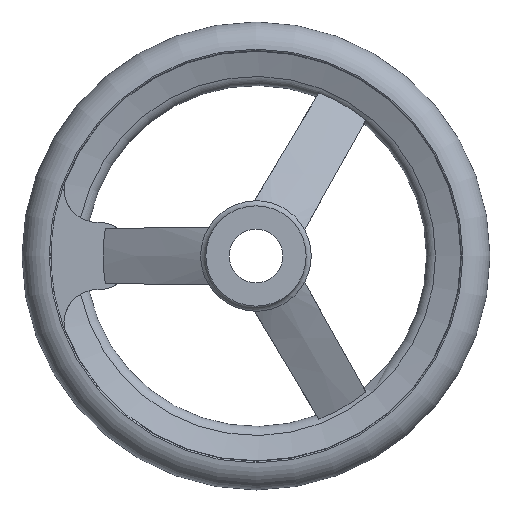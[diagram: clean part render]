
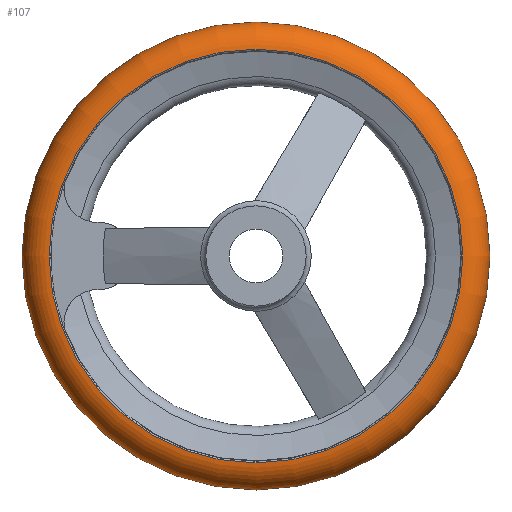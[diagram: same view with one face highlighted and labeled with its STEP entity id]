
A CAD part, left-side view. The second image highlights one B-rep face of the part: STEP entity #107.
In plain terms, the highlighted toroidal (fillet/blend) face has major radius 61.492 mm and minor radius 8.508 mm.
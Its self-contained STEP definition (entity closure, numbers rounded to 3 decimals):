
#107 = ADVANCED_FACE( '', ( #193, #194, #195 ), #196, .T. );
#193 = FACE_BOUND( '', #285, .T. );
#194 = FACE_OUTER_BOUND( '', #286, .T. );
#195 = FACE_OUTER_BOUND( '', #287, .T. );
#196 = TOROIDAL_SURFACE( '', #288, 61.492, 8.508 );
#285 = VERTEX_LOOP( '', #551 );
#286 = EDGE_LOOP( '', ( #552 ) );
#287 = EDGE_LOOP( '', ( #553 ) );
#288 = AXIS2_PLACEMENT_3D( '', #554, #555, #556 );
#551 = VERTEX_POINT( '', #681 );
#552 = ORIENTED_EDGE( '', *, *, #680, .T. );
#553 = ORIENTED_EDGE( '', *, *, #670, .F. );
#554 = CARTESIAN_POINT( '', ( 30.5, 0., 0. ) );
#555 = DIRECTION( '', ( -1., 0., 0. ) );
#556 = DIRECTION( '', ( 0., -1., 0. ) );
#670 = EDGE_CURVE( '', #822, #822, #823, .T. );
#680 = EDGE_CURVE( '', #836, #836, #837, .T. );
#681 = CARTESIAN_POINT( '', ( 30.5, -70., 0. ) );
#822 = VERTEX_POINT( '', #1395 );
#823 = CIRCLE( '', #1396, 61.854 );
#836 = VERTEX_POINT( '', #1410 );
#837 = CIRCLE( '', #1411, 61.854 );
#1395 = CARTESIAN_POINT( '', ( 22., -61.854, 0. ) );
#1396 = AXIS2_PLACEMENT_3D( '', #1520, #1521, #1522 );
#1410 = CARTESIAN_POINT( '', ( 39., -61.854, 0. ) );
#1411 = AXIS2_PLACEMENT_3D( '', #1548, #1549, #1550 );
#1520 = CARTESIAN_POINT( '', ( 22., 0., 0. ) );
#1521 = DIRECTION( '', ( -1., 0., 0. ) );
#1522 = DIRECTION( '', ( 0., -1., 0. ) );
#1548 = CARTESIAN_POINT( '', ( 39., 0., 0. ) );
#1549 = DIRECTION( '', ( -1., 0., 0. ) );
#1550 = DIRECTION( '', ( 0., -1., 0. ) );
